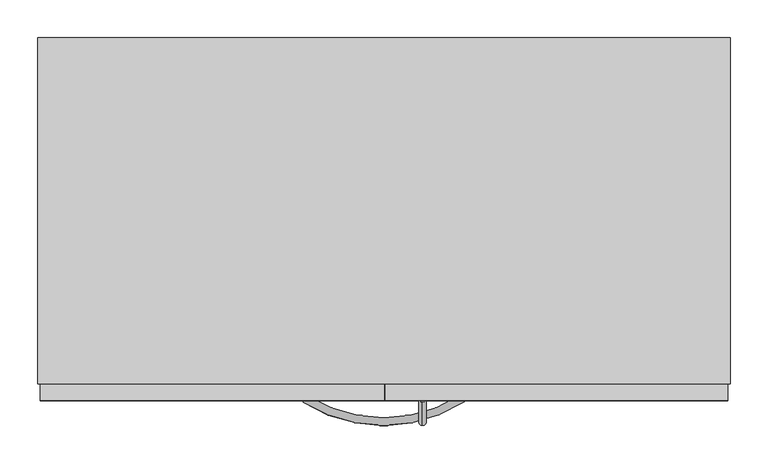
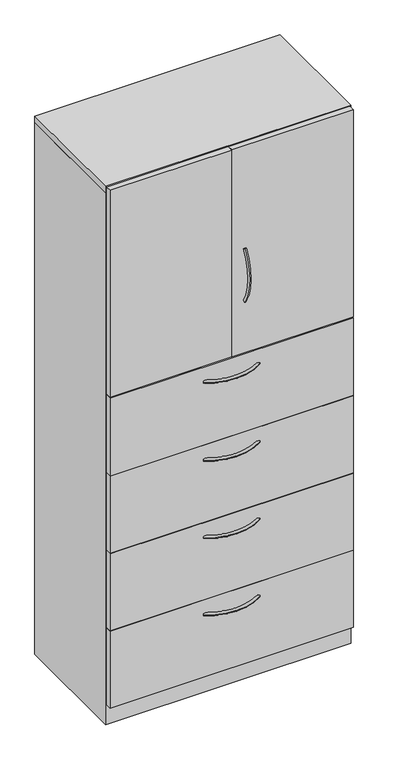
"""IFC4 building model written with IfcOpenShell, lengths in millimetres: furniture geometry, Steelcase - Universal Storage - Cabinet - Combination - Proud Steel : 83 1/2H - Hinged Doors/4 Drawers - 18 7/8D x 36W."""

from ifc_helpers import new_model, si_unit, point, frame, origin, place, context, project, spatial, polyline, circle_curve, ellipse_curve, trimmed, outline, extrude, faceted_brep, source, transform, mapped, element, save
from ifc_brep_helpers import plane_surface, revolved_surface, advanced_brep


def furniture_f5fa25d9(model_context):
    return source(origin(), model_context, "Body", "SolidModel", [
        extrude(outline(polyline([(911.2225413, -479.552), (3.1725353, -479.552), (3.1725353, -457.3261219), (911.2225413, -457.3261219), (911.2225413, -479.552)])), frame((0.0, 0.0, 77.724), z_axis=(0.0, 0.0, 1.0), x_axis=(1.0, 0.0, 0.0)), (0.0, 0.0, 1.0), 303.276),
        extrude(outline(polyline([(911.2225413, -479.552), (3.1725353, -479.552), (3.1725353, -457.3261219), (911.2225413, -457.3261219), (911.2225413, -479.552)])), frame((0.0, 0.0, 382.524), z_axis=(0.0, 0.0, 1.0), x_axis=(1.0, 0.0, 0.0)), (0.0, 0.0, 1.0), 303.276),
        extrude(outline(polyline([(911.2225413, -479.552), (3.1725353, -479.552), (3.1725353, -457.3261219), (911.2225413, -457.3261219), (911.2225413, -479.552)])), frame((0.0, 0.0, 687.3240349), z_axis=(0.0, 0.0, 1.0), x_axis=(1.0, 0.0, 0.0)), (0.0, 0.0, 1.0), 303.2759651),
        extrude(outline(polyline([(911.2225413, -479.552), (3.1725353, -479.552), (3.1725353, -457.3261219), (911.2225413, -457.3261219), (911.2225413, -479.552)])), frame((0.0, 0.0, 992.1240349), z_axis=(0.0, 0.0, 1.0), x_axis=(1.0, 0.0, 0.0)), (0.0, 0.0, 1.0), 306.4509893),
        extrude(outline(polyline([(457.2, -479.552), (3.1725353, -479.552), (3.1725353, -457.3261219), (457.2, -457.3261219), (457.2, -479.552)])), frame((0.0, 0.0, 1302.3862596), z_axis=(0.0, 0.0, 1.0), x_axis=(1.0, 0.0, 0.0)), (0.0, 0.0, 1.0), 815.34),
        extrude(outline(polyline([(911.2225413, -479.552), (458.7239992, -479.552), (458.7239992, -457.3261219), (911.2225413, -457.3261219), (911.2225413, -479.552)])), frame((0.0, 0.0, 1302.3862596), z_axis=(0.0, 0.0, 1.0), x_axis=(1.0, 0.0, 0.0)), (0.0, 0.0, 1.0), 815.34),
        advanced_brep(
        [(507.9682496, -481.5705994, 1714.523666), (507.9682496, -473.0108019, 1709.0505073), (507.9682496, -481.1337636, 1502.2167456), (507.9682496, -472.5965612, 1507.7250825)],
        [
            (0, 1, circle_curve(frame((507.9682496, -477.2907007, 1711.7870866), z_axis=(0.0, 0.5386967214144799, 0.842499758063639), x_axis=(0.0, 0.842499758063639, -0.5386967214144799)), 5.08)),
            (1, 0, circle_curve(frame((507.9682496, -477.2907007, 1711.7870866), z_axis=(0.0, 0.5386967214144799, 0.842499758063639), x_axis=(0.0, 0.842499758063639, -0.5386967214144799)), 5.08)),
            (2, 3, circle_curve(frame((507.9682496, -476.8651624, 1504.9709141), z_axis=(0.0, 0.5421591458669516, -0.8402758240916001), x_axis=(0.0, 0.8402758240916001, 0.5421591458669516)), 5.08)),
            (3, 2, circle_curve(frame((507.9682496, -476.8651624, 1504.9709141), z_axis=(0.0, 0.5421591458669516, -0.8402758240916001), x_axis=(0.0, 0.8402758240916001, 0.5421591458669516)), 5.08)),
            (3, 1, circle_curve(frame((507.9682496, -316.0827352, 1608.7102589), z_axis=(-1.0, 0.0, 0.0), x_axis=(0.0, -0.8424997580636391, 0.5386967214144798)), 186.2648211)),
            (0, 2, circle_curve(frame((507.9682496, -316.0827352, 1608.7102589), z_axis=(1.0, 0.0, 0.0), x_axis=(0.0, -0.8424997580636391, 0.5386967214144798)), 196.4248211)),
        ],
        [
            plane_surface(frame((508.7619996, -476.6365286, 1711.3688072), z_axis=(0.0, 0.5386967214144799, 0.8424997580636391), x_axis=(1.0, 0.0, 0.0))),
            plane_surface(frame((508.7619996, -476.2127171, 1505.391882), z_axis=(0.0, 0.5421591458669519, -0.8402758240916), x_axis=(1.0, 0.0, 0.0))),
            revolved_surface(trimmed(ellipse_curve(frame((507.9682496, -477.2907007, 1711.7870866), z_axis=(0.0, 0.5386967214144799, 0.842499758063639), x_axis=(0.0, 0.842499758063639, -0.5386967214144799)), 5.08, 5.08), [point((507.9682496, -481.5705994, 1714.523666))], [point((507.9682496, -473.0108019, 1709.0505073))], True, "CARTESIAN"), (508.7619996, -316.0827352, 1608.7102589), (1.0, 0.0, 0.0)),
            revolved_surface(trimmed(ellipse_curve(frame((507.9682496, -477.2907007, 1711.7870866), z_axis=(0.0, 0.5386967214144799, 0.842499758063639), x_axis=(0.0, 0.842499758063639, -0.5386967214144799)), 5.08, 5.08), [point((507.9682496, -473.0108019, 1709.0505073))], [point((507.9682496, -481.5705994, 1714.523666))], True, "CARTESIAN"), (508.7619996, -316.0827352, 1608.7102589), (1.0, 0.0, 0.0)),
        ],
        [
            (0, [[1, 2]]),
            (1, [[3, 4]]),
            (2, [[5, -1, 6, -4]]),
            (3, [[-6, -2, -5, -3]]),
        ],
    ),
        advanced_brep(
        [(350.6245932, -481.5705994, 1240.6312742), (356.0977519, -473.0108019, 1240.6312742), (562.9315136, -481.1337636, 1240.6312742), (557.4231767, -472.5965612, 1240.6312742)],
        [
            (0, 1, circle_curve(frame((353.3611726, -477.2907007, 1240.6312742), z_axis=(-0.8424997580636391, 0.5386967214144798, 0.0), x_axis=(0.5386967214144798, 0.8424997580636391, 0.0)), 5.08)),
            (1, 0, circle_curve(frame((353.3611726, -477.2907007, 1240.6312742), z_axis=(-0.8424997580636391, 0.5386967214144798, 0.0), x_axis=(0.5386967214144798, 0.8424997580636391, 0.0)), 5.08)),
            (2, 3, circle_curve(frame((560.1773452, -476.8651624, 1240.6312742), z_axis=(0.8402758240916, 0.5421591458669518, 0.0), x_axis=(-0.5421591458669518, 0.8402758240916, 0.0)), 5.08)),
            (3, 2, circle_curve(frame((560.1773452, -476.8651624, 1240.6312742), z_axis=(0.8402758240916, 0.5421591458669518, 0.0), x_axis=(-0.5421591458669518, 0.8402758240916, 0.0)), 5.08)),
            (3, 1, circle_curve(frame((456.4380004, -316.0827352, 1240.6312742), z_axis=(0.0, 0.0, -1.0), x_axis=(-0.5386967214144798, -0.8424997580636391, 0.0)), 186.2648211)),
            (0, 2, circle_curve(frame((456.4380004, -316.0827352, 1240.6312742), z_axis=(0.0, 0.0, 1.0), x_axis=(-0.5386967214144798, -0.8424997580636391, 0.0)), 196.4248211)),
        ],
        [
            plane_surface(frame((353.7794521, -476.6365286, 1241.4250242), z_axis=(-0.8424997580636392, 0.5386967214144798, 0.0), x_axis=(0.0, 0.0, 1.0))),
            plane_surface(frame((559.7563772, -476.2127171, 1241.4250242), z_axis=(0.8402758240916, 0.5421591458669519, 0.0), x_axis=(0.0, 0.0, 1.0))),
            revolved_surface(trimmed(ellipse_curve(frame((353.3611726, -477.2907007, 1240.6312742), z_axis=(-0.8424997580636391, 0.5386967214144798, 0.0), x_axis=(0.5386967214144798, 0.8424997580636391, 0.0)), 5.08, 5.08), [point((350.6245932, -481.5705994, 1240.6312742))], [point((356.0977519, -473.0108019, 1240.6312742))], True, "CARTESIAN"), (456.4380004, -316.0827352, 1241.4250242), (0.0, 0.0, 1.0)),
            revolved_surface(trimmed(ellipse_curve(frame((353.3611726, -477.2907007, 1240.6312742), z_axis=(-0.8424997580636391, 0.5386967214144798, 0.0), x_axis=(0.5386967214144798, 0.8424997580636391, 0.0)), 5.08, 5.08), [point((356.0977519, -473.0108019, 1240.6312742))], [point((350.6245932, -481.5705994, 1240.6312742))], True, "CARTESIAN"), (456.4380004, -316.0827352, 1241.4250242), (0.0, 0.0, 1.0)),
        ],
        [
            (0, [[1, 2]]),
            (1, [[3, 4]]),
            (2, [[5, -1, 6, -4]]),
            (3, [[-6, -2, -5, -3]]),
        ],
    ),
        advanced_brep(
        [(350.6245932, -481.5705994, 323.56425), (356.0977519, -473.0108019, 323.56425), (562.9315136, -481.1337636, 323.56425), (557.4231767, -472.5965612, 323.56425)],
        [
            (0, 1, circle_curve(frame((353.3611726, -477.2907007, 323.56425), z_axis=(-0.8424997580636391, 0.5386967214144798, 0.0), x_axis=(0.5386967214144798, 0.8424997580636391, 0.0)), 5.08)),
            (1, 0, circle_curve(frame((353.3611726, -477.2907007, 323.56425), z_axis=(-0.8424997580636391, 0.5386967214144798, 0.0), x_axis=(0.5386967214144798, 0.8424997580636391, 0.0)), 5.08)),
            (2, 3, circle_curve(frame((560.1773452, -476.8651624, 323.56425), z_axis=(0.8402758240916, 0.5421591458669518, 0.0), x_axis=(-0.5421591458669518, 0.8402758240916, 0.0)), 5.08)),
            (3, 2, circle_curve(frame((560.1773452, -476.8651624, 323.56425), z_axis=(0.8402758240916, 0.5421591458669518, 0.0), x_axis=(-0.5421591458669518, 0.8402758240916, 0.0)), 5.08)),
            (3, 1, circle_curve(frame((456.4380004, -316.0827352, 323.56425), z_axis=(0.0, 0.0, -1.0), x_axis=(-0.5386967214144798, -0.8424997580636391, 0.0)), 186.2648211)),
            (0, 2, circle_curve(frame((456.4380004, -316.0827352, 323.56425), z_axis=(0.0, 0.0, 1.0), x_axis=(-0.5386967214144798, -0.8424997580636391, 0.0)), 196.4248211)),
        ],
        [
            plane_surface(frame((353.7794521, -476.6365286, 324.358), z_axis=(-0.8424997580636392, 0.5386967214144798, 0.0), x_axis=(0.0, 0.0, 1.0))),
            plane_surface(frame((559.7563772, -476.2127171, 324.358), z_axis=(0.8402758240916, 0.5421591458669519, 0.0), x_axis=(0.0, 0.0, 1.0))),
            revolved_surface(trimmed(ellipse_curve(frame((353.3611726, -477.2907007, 323.56425), z_axis=(-0.8424997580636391, 0.5386967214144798, 0.0), x_axis=(0.5386967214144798, 0.8424997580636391, 0.0)), 5.08, 5.08), [point((350.6245932, -481.5705994, 323.56425))], [point((356.0977519, -473.0108019, 323.56425))], True, "CARTESIAN"), (456.4380004, -316.0827352, 324.358), (0.0, 0.0, 1.0)),
            revolved_surface(trimmed(ellipse_curve(frame((353.3611726, -477.2907007, 323.56425), z_axis=(-0.8424997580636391, 0.5386967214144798, 0.0), x_axis=(0.5386967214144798, 0.8424997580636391, 0.0)), 5.08, 5.08), [point((356.0977519, -473.0108019, 323.56425))], [point((350.6245932, -481.5705994, 323.56425))], True, "CARTESIAN"), (456.4380004, -316.0827352, 324.358), (0.0, 0.0, 1.0)),
        ],
        [
            (0, [[1, 2]]),
            (1, [[3, 4]]),
            (2, [[5, -1, 6, -4]]),
            (3, [[-6, -2, -5, -3]]),
        ],
    ),
        advanced_brep(
        [(350.6245932, -481.5705994, 627.85625), (356.0977519, -473.0108019, 627.85625), (562.9315136, -481.1337636, 627.85625), (557.4231767, -472.5965612, 627.85625)],
        [
            (0, 1, circle_curve(frame((353.3611726, -477.2907007, 627.85625), z_axis=(-0.8424997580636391, 0.5386967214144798, 0.0), x_axis=(0.5386967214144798, 0.8424997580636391, 0.0)), 5.08)),
            (1, 0, circle_curve(frame((353.3611726, -477.2907007, 627.85625), z_axis=(-0.8424997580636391, 0.5386967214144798, 0.0), x_axis=(0.5386967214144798, 0.8424997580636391, 0.0)), 5.08)),
            (2, 3, circle_curve(frame((560.1773452, -476.8651624, 627.85625), z_axis=(0.8402758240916, 0.5421591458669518, 0.0), x_axis=(-0.5421591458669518, 0.8402758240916, 0.0)), 5.08)),
            (3, 2, circle_curve(frame((560.1773452, -476.8651624, 627.85625), z_axis=(0.8402758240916, 0.5421591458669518, 0.0), x_axis=(-0.5421591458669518, 0.8402758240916, 0.0)), 5.08)),
            (3, 1, circle_curve(frame((456.4380004, -316.0827352, 627.85625), z_axis=(0.0, 0.0, -1.0), x_axis=(-0.5386967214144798, -0.8424997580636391, 0.0)), 186.2648211)),
            (0, 2, circle_curve(frame((456.4380004, -316.0827352, 627.85625), z_axis=(0.0, 0.0, 1.0), x_axis=(-0.5386967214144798, -0.8424997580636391, 0.0)), 196.4248211)),
        ],
        [
            plane_surface(frame((353.7794521, -476.6365286, 628.65), z_axis=(-0.8424997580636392, 0.5386967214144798, 0.0), x_axis=(0.0, 0.0, 1.0))),
            plane_surface(frame((559.7563772, -476.2127171, 628.65), z_axis=(0.8402758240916, 0.5421591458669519, 0.0), x_axis=(0.0, 0.0, 1.0))),
            revolved_surface(trimmed(ellipse_curve(frame((353.3611726, -477.2907007, 627.85625), z_axis=(-0.8424997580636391, 0.5386967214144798, 0.0), x_axis=(0.5386967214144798, 0.8424997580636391, 0.0)), 5.08, 5.08), [point((350.6245932, -481.5705994, 627.85625))], [point((356.0977519, -473.0108019, 627.85625))], True, "CARTESIAN"), (456.4380004, -316.0827352, 628.65), (0.0, 0.0, 1.0)),
            revolved_surface(trimmed(ellipse_curve(frame((353.3611726, -477.2907007, 627.85625), z_axis=(-0.8424997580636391, 0.5386967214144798, 0.0), x_axis=(0.5386967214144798, 0.8424997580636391, 0.0)), 5.08, 5.08), [point((356.0977519, -473.0108019, 627.85625))], [point((350.6245932, -481.5705994, 627.85625))], True, "CARTESIAN"), (456.4380004, -316.0827352, 628.65), (0.0, 0.0, 1.0)),
        ],
        [
            (0, [[1, 2]]),
            (1, [[3, 4]]),
            (2, [[5, -1, 6, -4]]),
            (3, [[-6, -2, -5, -3]]),
        ],
    ),
        advanced_brep(
        [(350.6245932, -481.5705994, 932.65625), (356.0977519, -473.0108019, 932.65625), (562.9315136, -481.1337636, 932.65625), (557.4231767, -472.5965612, 932.65625)],
        [
            (0, 1, circle_curve(frame((353.3611726, -477.2907007, 932.65625), z_axis=(-0.8424997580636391, 0.5386967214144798, 0.0), x_axis=(0.5386967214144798, 0.8424997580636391, 0.0)), 5.08)),
            (1, 0, circle_curve(frame((353.3611726, -477.2907007, 932.65625), z_axis=(-0.8424997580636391, 0.5386967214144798, 0.0), x_axis=(0.5386967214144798, 0.8424997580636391, 0.0)), 5.08)),
            (2, 3, circle_curve(frame((560.1773452, -476.8651624, 932.65625), z_axis=(0.8402758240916, 0.5421591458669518, 0.0), x_axis=(-0.5421591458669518, 0.8402758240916, 0.0)), 5.08)),
            (3, 2, circle_curve(frame((560.1773452, -476.8651624, 932.65625), z_axis=(0.8402758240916, 0.5421591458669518, 0.0), x_axis=(-0.5421591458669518, 0.8402758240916, 0.0)), 5.08)),
            (3, 1, circle_curve(frame((456.4380004, -316.0827352, 932.65625), z_axis=(0.0, 0.0, -1.0), x_axis=(-0.5386967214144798, -0.8424997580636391, 0.0)), 186.2648211)),
            (0, 2, circle_curve(frame((456.4380004, -316.0827352, 932.65625), z_axis=(0.0, 0.0, 1.0), x_axis=(-0.5386967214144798, -0.8424997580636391, 0.0)), 196.4248211)),
        ],
        [
            plane_surface(frame((353.7794521, -476.6365286, 933.45), z_axis=(-0.8424997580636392, 0.5386967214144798, 0.0), x_axis=(0.0, 0.0, 1.0))),
            plane_surface(frame((559.7563772, -476.2127171, 933.45), z_axis=(0.8402758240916, 0.5421591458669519, 0.0), x_axis=(0.0, 0.0, 1.0))),
            revolved_surface(trimmed(ellipse_curve(frame((353.3611726, -477.2907007, 932.65625), z_axis=(-0.8424997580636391, 0.5386967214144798, 0.0), x_axis=(0.5386967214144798, 0.8424997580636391, 0.0)), 5.08, 5.08), [point((350.6245932, -481.5705994, 932.65625))], [point((356.0977519, -473.0108019, 932.65625))], True, "CARTESIAN"), (456.4380004, -316.0827352, 933.45), (0.0, 0.0, 1.0)),
            revolved_surface(trimmed(ellipse_curve(frame((353.3611726, -477.2907007, 932.65625), z_axis=(-0.8424997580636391, 0.5386967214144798, 0.0), x_axis=(0.5386967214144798, 0.8424997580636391, 0.0)), 5.08, 5.08), [point((356.0977519, -473.0108019, 932.65625))], [point((350.6245932, -481.5705994, 932.65625))], True, "CARTESIAN"), (456.4380004, -316.0827352, 933.45), (0.0, 0.0, 1.0)),
        ],
        [
            (0, [[1, 2]]),
            (1, [[3, 4]]),
            (2, [[5, -1, 6, -4]]),
            (3, [[-6, -2, -5, -3]]),
        ],
    ),
        faceted_brep([(25.4000008, -457.3261219, 76.2), (889.0000242, -457.3261219, 76.2), (889.0000242, -25.4000008, 76.2), (25.4000008, -25.4000008, 76.2), (914.4, 0.0, 0.0), (914.4, -457.3261219, 0.0), (0.0, -457.3261219, 0.0), (0.0, 0.0, 0.0), (0.0, 0.0, 2093.976), (914.4, 0.0, 2093.976), (0.0, -457.3261219, 2093.976), (914.4, -457.3261219, 2093.976), (889.0000242, -457.3261219, 2093.976), (25.4000008, -457.3261219, 2093.976), (889.0000242, -25.4000008, 2093.976), (25.4000008, -25.4000008, 2093.976)], [[[0, 1, 2, 3]], [[4, 5, 6, 7]], [[4, 7, 8, 9]], [[8, 7, 6, 10]], [[10, 6, 5, 11, 12, 1, 0, 13]], [[11, 5, 4, 9]], [[14, 12, 11, 9, 8, 10, 13, 15]], [[12, 14, 2, 1]], [[15, 13, 0, 3]], [[14, 15, 3, 2]]]),
        extrude(outline(polyline([(914.4, 0.0), (914.4, -457.3261219), (0.0, -457.3261219), (0.0, 0.0), (914.4, 0.0)])), frame((0.0, 0.0, 2095.4999516), z_axis=(0.0, 0.0, 1.0), x_axis=(1.0, 0.0, 0.0)), (0.0, 0.0, 1.0), 25.4000484),
    ])


if __name__ == "__main__":
    model = new_model("IFC4")
    model_context = context("Model", 3, world=origin())
    ifc_project = project(units=[si_unit("LENGTHUNIT", "METRE", prefix="MILLI")], contexts=[model_context])
    site = spatial("IfcSite", under=ifc_project)
    building = spatial("IfcBuilding", under=site)
    placement = place(None, origin())
    furniture_shape = furniture_f5fa25d9(model_context)
    element("IfcFurniture", 1, ObjectType="Steelcase - Universal Storage - Cabinet - Combination - Proud Steel : 83 1/2H - Hinged Doors/4 Drawers - 18 7/8D x 36W", at=placement, inside=building, context=model_context, shape_type="MappedRepresentation", body=[
        mapped(furniture_shape, transform((0.0, 0.0, 0.0), x_axis=(1.0, 0.0, 0.0), y_axis=(0.0, 1.0, 0.0), z_axis=(0.0, 0.0, 1.0))),
    ])
    save(model, "model.ifc")
